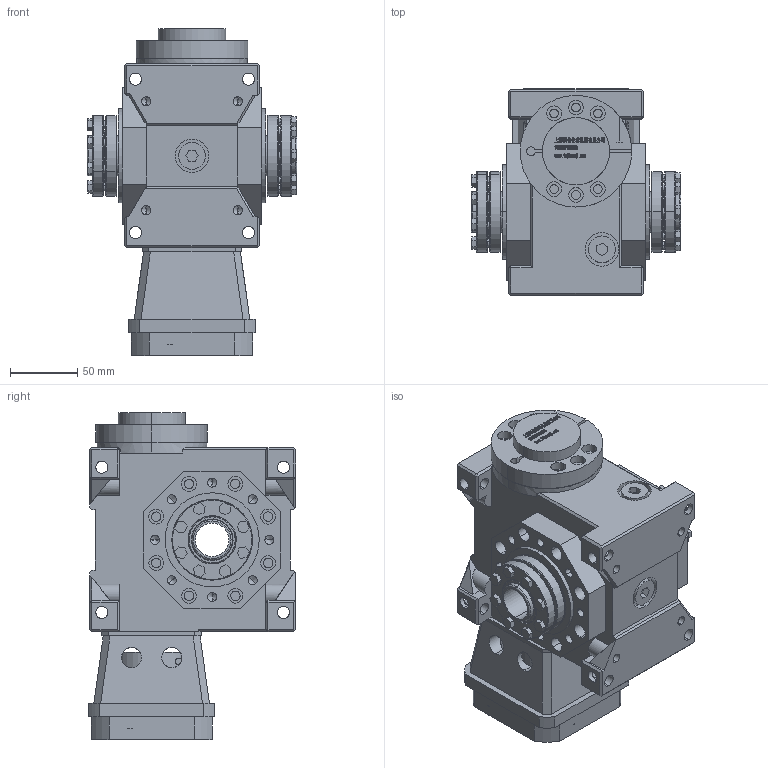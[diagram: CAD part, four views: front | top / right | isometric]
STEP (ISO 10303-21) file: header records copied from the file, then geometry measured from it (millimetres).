
FILE_DESCRIPTION (( 'STEP AP203' ), '1' );
FILE_NAME ('FXLB045-(5~90)-2C-19-70-90-M6.step', '2022-11-06T03:35:37', ( '' ), ( '' ), 'SwSTEP 2.0', 'SolidWorks 2020', '' );
FILE_SCHEMA (( 'CONFIG_CONTROL_DESIGN' ));
Length unit declared in the file: millimetre
Products named in the file (9): FXLB045-(5~90)-2C-19-70-90-M6; ______BD56-60-19-15____.step; JDLB050-C1______-30-60-18.step; JDLB045-ST94________.step; JDLB045-CR____.step; 錨璃114^FXLB045-(5~90)-2C-19-70-90-M6; FXLB045-(5~90)-2C-19-70-90-M6.step; ST90-70-90-M6____________.step; JDLB050-2C____________25.step
Assembly tree (9 placements, depth 3):
  FXLB045-(5~90)-2C-19-70-90-M6
    FXLB045-(5~90)-2C-19-70-90-M6.step
      JDLB045-CR____.step
      JDLB045-ST94________.step
      ST90-70-90-M6____________.step
      ______BD56-60-19-15____.step
      JDLB050-C1______-30-60-18.step  x2
      JDLB050-2C____________25.step
    錨璃114^FXLB045-(5~90)-2C-19-70-90-M6
Bounding box: 156 x 154 x 243.2 mm (x, y, z)
Volume: 2246786.8 mm3; surface area: 363103.3 mm2
Topology: 88 solids, 88 shells, 2911 faces, 7568 edges, 4939 vertices
Faces by surface type: plane 1695, bspline 572, cylinder 494, cone 94, torus 56
Entity records: 112843 total; most frequent: CARTESIAN_POINT 46972, ORIENTED_EDGE 14388, DIRECTION 11423, EDGE_CURVE 7194, LINE 4923, VECTOR 4923, VERTEX_POINT 4737, AXIS2_PLACEMENT_3D 3250
